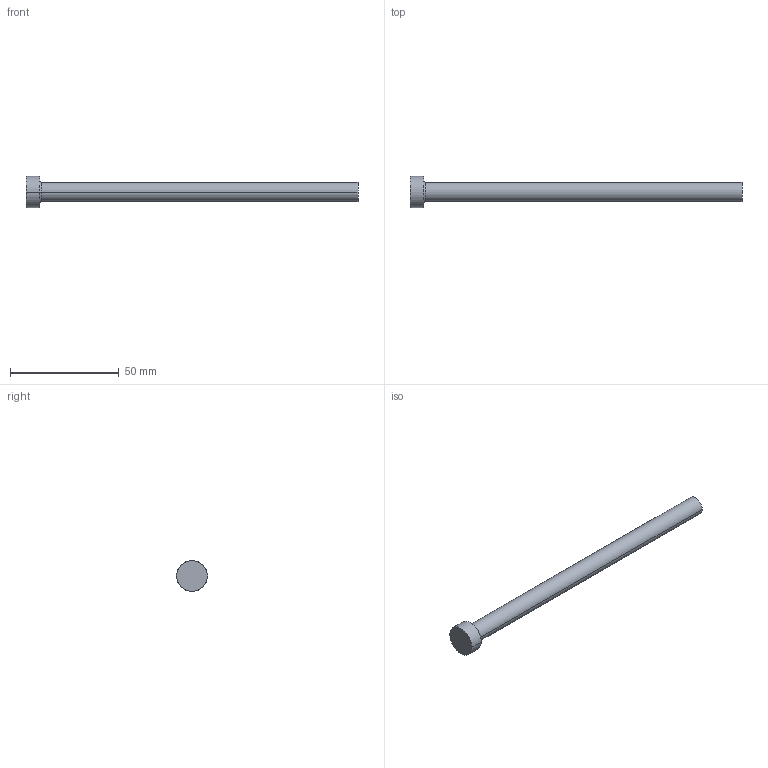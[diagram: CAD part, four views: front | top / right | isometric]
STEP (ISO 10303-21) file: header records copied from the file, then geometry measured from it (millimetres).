
FILE_DESCRIPTION (( 'STEP AP214' ), '1' );
FILE_NAME ('P23-6.STEP', '2020-03-12T09:43:32', ( '' ), ( '' ), 'SwSTEP 2.0', 'SolidWorks 2018', '' );
FILE_SCHEMA (( 'AUTOMOTIVE_DESIGN' ));
Length unit declared in the file: inch
Products named in the file (1): P23-6
Bounding box: 152.4 x 14.29 x 14.29 mm (x, y, z)
Volume: 9750.6 mm3; surface area: 4594.3 mm2
Topology: 1 solids, 1 shells, 13 faces, 24 edges, 14 vertices
Faces by surface type: cone 4, cylinder 4, plane 3, torus 2
Entity records: 366 total; most frequent: DIRECTION 68, CARTESIAN_POINT 52, ORIENTED_EDGE 48, AXIS2_PLACEMENT_3D 30, EDGE_CURVE 24, CIRCLE 16, VERTEX_POINT 14, EDGE_LOOP 14
